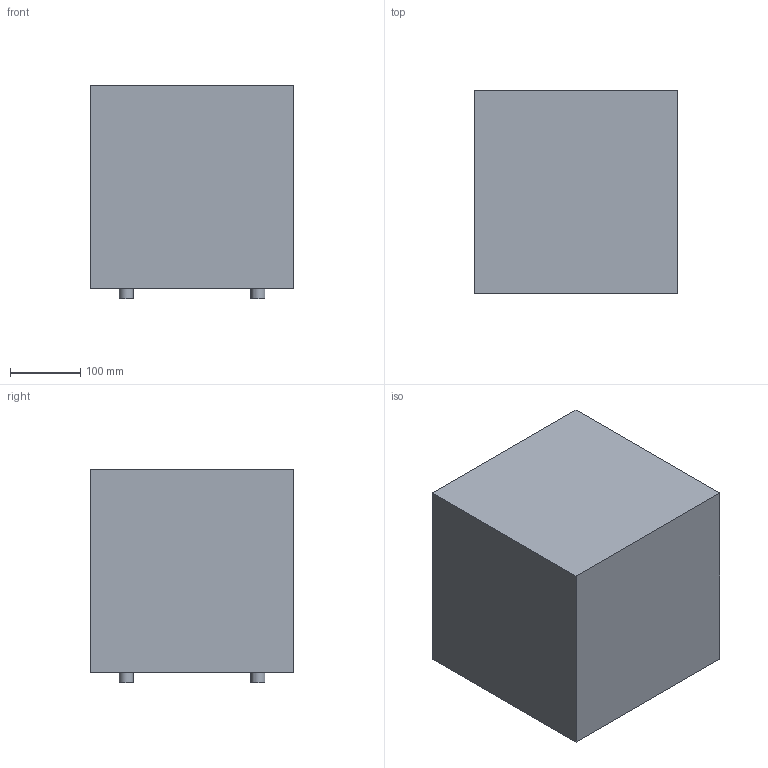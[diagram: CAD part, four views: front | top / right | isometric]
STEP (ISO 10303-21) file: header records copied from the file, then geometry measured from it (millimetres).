
FILE_DESCRIPTION(/* description */ (''),/* implementation_level */ '2;1');
FILE_NAME(/* name */ 'C:/Users/LukasGröber/GMS Cloud/Groeber Mannheim Lichtwerke - Dokumente/Marketing/Produkte/3D Daten/Würfel Eifel im Herbst/Würfel Eifel im Herbst 29.step',/* time_stamp */ '2022-07-08T16:24:14+02:00',/* author */ (''),/* organization */ (''),/* preprocessor_version */ 'ST-DEVELOPER v19',/* originating_system */ 'Autodesk Translation Framework v11.7.0.108',/* authorisation */ '');
FILE_SCHEMA (('AUTOMOTIVE_DESIGN { 1 0 10303 214 3 1 1 }'));
Length unit declared in the file: millimetre
Products named in the file (1): Würfel Eifel im Herbst 29
Bounding box: 290 x 290 x 305 mm (x, y, z)
Volume: 24407849.6 mm3; surface area: 508369.9 mm2
Topology: 1 solids, 1 shells, 14 faces, 24 edges, 16 vertices
Faces by surface type: plane 10, cylinder 4
Full cylindrical faces by diameter (mm): 20 x4
Entity records: 392 total; most frequent: DIRECTION 62, CARTESIAN_POINT 55, ORIENTED_EDGE 48, EDGE_CURVE 24, AXIS2_PLACEMENT_3D 23, EDGE_LOOP 18, LINE 16, VECTOR 16
